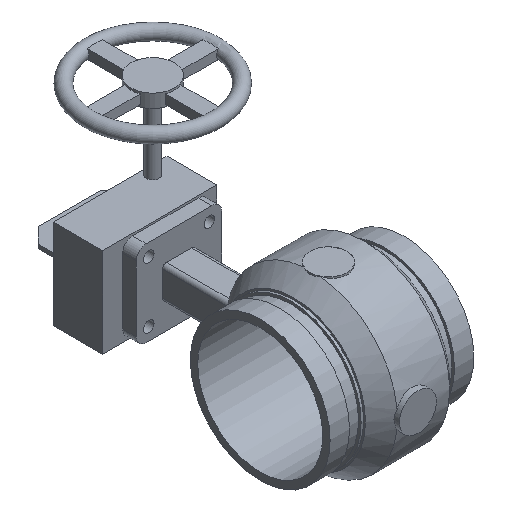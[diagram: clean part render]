
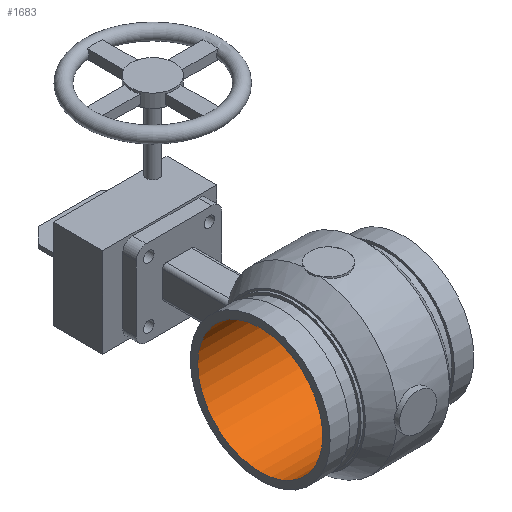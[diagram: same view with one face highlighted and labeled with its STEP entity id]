
A CAD part, isometric view. The second image highlights one B-rep face of the part: STEP entity #1683.
In plain terms, the highlighted cylindrical face has radius 51.13 mm (diameter 102.26 mm), a full revolution.
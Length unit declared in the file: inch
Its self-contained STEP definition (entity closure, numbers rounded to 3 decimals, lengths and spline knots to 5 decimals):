
#52=CYLINDRICAL_SURFACE('',#1815,2.013);
#117=CIRCLE('',#1816,2.013);
#118=CIRCLE('',#1817,2.013);
#119=CIRCLE('',#1818,2.013);
#120=CIRCLE('',#1819,2.013);
#217=FACE_OUTER_BOUND('',#310,.T.);
#310=EDGE_LOOP('',(#1146,#1147,#1148,#1149,#1150,#1151));
#436=LINE('',#2796,#548);
#548=VECTOR('',#2085,2.013);
#674=VERTEX_POINT('',#2792);
#675=VERTEX_POINT('',#2793);
#676=VERTEX_POINT('',#2795);
#677=VERTEX_POINT('',#2797);
#857=EDGE_CURVE('',#674,#675,#117,.T.);
#858=EDGE_CURVE('',#675,#676,#436,.T.);
#859=EDGE_CURVE('',#677,#676,#118,.T.);
#860=EDGE_CURVE('',#676,#677,#119,.T.);
#861=EDGE_CURVE('',#675,#674,#120,.T.);
#1146=ORIENTED_EDGE('',*,*,#857,.T.);
#1147=ORIENTED_EDGE('',*,*,#858,.T.);
#1148=ORIENTED_EDGE('',*,*,#859,.F.);
#1149=ORIENTED_EDGE('',*,*,#860,.F.);
#1150=ORIENTED_EDGE('',*,*,#858,.F.);
#1151=ORIENTED_EDGE('',*,*,#861,.T.);
#1683=ADVANCED_FACE('',(#217),#52,.F.);
#1815=AXIS2_PLACEMENT_3D('',#2791,#2081,#2082);
#1816=AXIS2_PLACEMENT_3D('',#2794,#2083,#2084);
#1817=AXIS2_PLACEMENT_3D('',#2798,#2086,#2087);
#1818=AXIS2_PLACEMENT_3D('',#2799,#2088,#2089);
#1819=AXIS2_PLACEMENT_3D('',#2800,#2090,#2091);
#2081=DIRECTION('center_axis',(1.,0.,0.));
#2082=DIRECTION('ref_axis',(0.,1.,0.));
#2083=DIRECTION('center_axis',(1.,0.,0.));
#2084=DIRECTION('ref_axis',(0.,0.,-1.));
#2085=DIRECTION('',(-1.,0.,0.));
#2086=DIRECTION('center_axis',(1.,0.,0.));
#2087=DIRECTION('ref_axis',(0.,0.,-1.));
#2088=DIRECTION('center_axis',(1.,0.,0.));
#2089=DIRECTION('ref_axis',(0.,0.,-1.));
#2090=DIRECTION('center_axis',(1.,0.,0.));
#2091=DIRECTION('ref_axis',(0.,0.,-1.));
#2791=CARTESIAN_POINT('Origin',(0.115,0.,0.));
#2792=CARTESIAN_POINT('',(2.43,0.,-2.013));
#2793=CARTESIAN_POINT('',(2.43,-2.013,0.));
#2794=CARTESIAN_POINT('Origin',(2.43,0.,0.));
#2795=CARTESIAN_POINT('',(-2.2,-2.013,0.));
#2796=CARTESIAN_POINT('',(0.115,-2.013,0.));
#2797=CARTESIAN_POINT('',(-2.2,2.013,0.));
#2798=CARTESIAN_POINT('Origin',(-2.2,0.,0.));
#2799=CARTESIAN_POINT('Origin',(-2.2,0.,0.));
#2800=CARTESIAN_POINT('Origin',(2.43,0.,0.));
